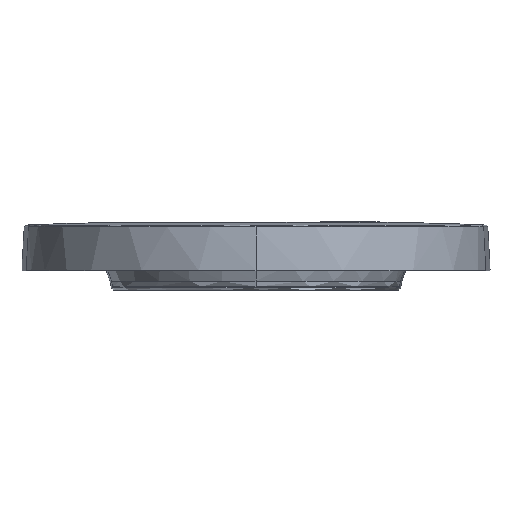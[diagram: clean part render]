
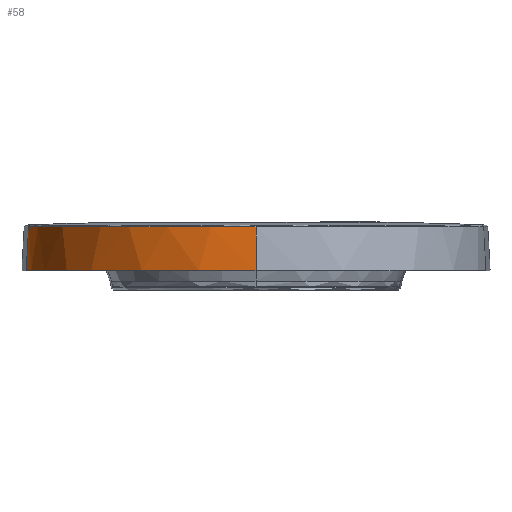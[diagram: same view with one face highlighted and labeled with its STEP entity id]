
A CAD part, front view. The second image highlights one B-rep face of the part: STEP entity #58.
In plain terms, the highlighted free-form (B-spline) face has degree [2, 1] with [9, 2] control points.
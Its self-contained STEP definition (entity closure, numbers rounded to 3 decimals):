
#58=ADVANCED_FACE('',(#572),#7193,.T.);
#572=FACE_OUTER_BOUND('',#1088,.T.);
#1088=EDGE_LOOP('',(#1789,#1790,#1791,#1792,#1793));
#1789=ORIENTED_EDGE('',*,*,#4002,.F.);
#1790=ORIENTED_EDGE('',*,*,#4087,.T.);
#1791=ORIENTED_EDGE('',*,*,#4293,.T.);
#1792=ORIENTED_EDGE('',*,*,#4057,.F.);
#1793=ORIENTED_EDGE('',*,*,#4088,.T.);
#4002=EDGE_CURVE('',#6466,#6467,#5210,.T.);
#4057=EDGE_CURVE('',#6547,#6548,#5251,.T.);
#4087=EDGE_CURVE('',#6466,#6586,#5270,.T.);
#4088=EDGE_CURVE('',#6547,#6467,#5697,.T.);
#4293=EDGE_CURVE('',#6586,#6548,#5841,.T.);
#5210=B_SPLINE_CURVE_WITH_KNOTS('',1,(#14534,#14535),.UNSPECIFIED.,.F.,
 .F.,(2,2),(0.,35.103),.UNSPECIFIED.);
#5251=B_SPLINE_CURVE_WITH_KNOTS('',1,(#15175,#15176),.UNSPECIFIED.,.F.,
 .F.,(2,2),(-35.111,0.),.UNSPECIFIED.);
#5270=B_SPLINE_CURVE_WITH_KNOTS('',3,(#15344,#15345,#15346,#15347,#15348,
#15349,#15350,#15351,#15352,#15353,#15354,#15355,#15356,#15357,#15358,#15359,
#15360,#15361,#15362,#15363,#15364,#15365,#15366,#15367,#15368,#15369,#15370,
#15371,#15372,#15373,#15374,#15375,#15376,#15377),.UNSPECIFIED.,.F.,.F.,
(4,2,2,2,2,2,2,2,2,2,2,2,2,2,2,2,4),(0.284,0.301,
0.319,0.337,0.355,0.372,
0.39,0.408,0.426,0.443,
0.461,0.479,0.497,0.514,
0.532,0.55,0.567),.UNSPECIFIED.);
#5697=(
BOUNDED_CURVE()
B_SPLINE_CURVE(2,(#15378,#15379,#15380),.UNSPECIFIED.,.F.,.F.)
B_SPLINE_CURVE_WITH_KNOTS((3,3),(0.,284.89),.UNSPECIFIED.)
CURVE()
GEOMETRIC_REPRESENTATION_ITEM()
RATIONAL_B_SPLINE_CURVE((1.,0.713,1.))
REPRESENTATION_ITEM('')
);
#5841=(
BOUNDED_CURVE()
B_SPLINE_CURVE(3,(#17278,#17279,#17280,#17281),.UNSPECIFIED.,.F.,.F.)
B_SPLINE_CURVE_WITH_KNOTS((4,4),(-0.805,0.),.UNSPECIFIED.)
CURVE()
GEOMETRIC_REPRESENTATION_ITEM()
RATIONAL_B_SPLINE_CURVE((1.,1.,1.,1.))
REPRESENTATION_ITEM('')
);
#6466=VERTEX_POINT('',#14059);
#6467=VERTEX_POINT('',#14060);
#6547=VERTEX_POINT('',#14140);
#6548=VERTEX_POINT('',#14141);
#6586=VERTEX_POINT('',#14179);
#7193=(
BOUNDED_SURFACE()
B_SPLINE_SURFACE(2,1,((#9683,#9684),(#9685,#9686),(#9687,#9688),(#9689,
#9690),(#9691,#9692),(#9693,#9694),(#9695,#9696),(#9697,#9698),(#9699,#9700)),
 .UNSPECIFIED.,.T.,.F.,.F.)
B_SPLINE_SURFACE_WITH_KNOTS((3,2,2,2,3),(2,2),(0.,288.373,576.746,
865.118,1153.491),(0.,42.136),.UNSPECIFIED.)
GEOMETRIC_REPRESENTATION_ITEM()
RATIONAL_B_SPLINE_SURFACE(((1.,1.),(0.707,0.707),
(1.,1.),(0.707,0.707),(1.,1.),(0.707,
0.707),(1.,1.),(0.707,0.707),(1.,1.)))
REPRESENTATION_ITEM('')
SURFACE()
);
#9683=CARTESIAN_POINT('',(0.,134.24,38.68));
#9684=CARTESIAN_POINT('',(0.,136.445,-3.398));
#9685=CARTESIAN_POINT('',(181.379,134.24,38.68));
#9686=CARTESIAN_POINT('',(183.584,136.445,-3.398));
#9687=CARTESIAN_POINT('',(181.379,-47.139,38.68));
#9688=CARTESIAN_POINT('',(183.584,-47.139,-3.398));
#9689=CARTESIAN_POINT('',(181.379,-228.517,38.68));
#9690=CARTESIAN_POINT('',(183.584,-230.723,-3.398));
#9691=CARTESIAN_POINT('',(0.,-228.517,38.68));
#9692=CARTESIAN_POINT('',(0.,-230.723,-3.398));
#9693=CARTESIAN_POINT('',(-181.379,-228.517,38.68));
#9694=CARTESIAN_POINT('',(-183.584,-230.723,-3.398));
#9695=CARTESIAN_POINT('',(-181.379,-47.139,38.68));
#9696=CARTESIAN_POINT('',(-183.584,-47.139,-3.398));
#9697=CARTESIAN_POINT('',(-181.379,134.24,38.68));
#9698=CARTESIAN_POINT('',(-183.584,136.445,-3.398));
#9699=CARTESIAN_POINT('',(0.,134.24,38.68));
#9700=CARTESIAN_POINT('',(0.,136.445,-3.398));
#14059=CARTESIAN_POINT('',(0.,-228.702,35.164));
#14060=CARTESIAN_POINT('',(0.,-230.539,0.11));
#14140=CARTESIAN_POINT('',(-183.372,-50.333,0.11));
#14141=CARTESIAN_POINT('',(-181.535,-50.301,35.173));
#14179=CARTESIAN_POINT('',(-181.519,-51.106,35.172));
#14534=CARTESIAN_POINT('',(0.,-228.702,35.164));
#14535=CARTESIAN_POINT('',(0.,-230.539,0.11));
#15175=CARTESIAN_POINT('',(-183.372,-50.333,0.11));
#15176=CARTESIAN_POINT('',(-181.535,-50.301,35.173));
#15344=CARTESIAN_POINT('',(0.,-228.702,35.164));
#15345=CARTESIAN_POINT('',(-5.859,-228.702,35.164));
#15346=CARTESIAN_POINT('',(-11.718,-228.418,35.164));
#15347=CARTESIAN_POINT('',(-23.381,-227.285,35.164));
#15348=CARTESIAN_POINT('',(-29.185,-226.436,35.164));
#15349=CARTESIAN_POINT('',(-40.684,-224.182,35.164));
#15350=CARTESIAN_POINT('',(-46.379,-222.776,35.164));
#15351=CARTESIAN_POINT('',(-57.606,-219.42,35.164));
#15352=CARTESIAN_POINT('',(-63.139,-217.471,35.164));
#15353=CARTESIAN_POINT('',(-73.989,-213.046,35.164));
#15354=CARTESIAN_POINT('',(-79.307,-210.57,35.164));
#15355=CARTESIAN_POINT('',(-89.679,-205.117,35.164));
#15356=CARTESIAN_POINT('',(-94.732,-202.139,35.164));
#15357=CARTESIAN_POINT('',(-104.529,-195.709,35.164));
#15358=CARTESIAN_POINT('',(-109.271,-192.257,35.164));
#15359=CARTESIAN_POINT('',(-118.4,-184.91,35.164));
#15360=CARTESIAN_POINT('',(-122.786,-181.015,35.164));
#15361=CARTESIAN_POINT('',(-131.162,-172.821,35.164));
#15362=CARTESIAN_POINT('',(-135.151,-168.52,35.165));
#15363=CARTESIAN_POINT('',(-142.696,-159.554,35.165));
#15364=CARTESIAN_POINT('',(-146.251,-154.889,35.165));
#15365=CARTESIAN_POINT('',(-152.894,-145.235,35.165));
#15366=CARTESIAN_POINT('',(-155.981,-140.248,35.165));
#15367=CARTESIAN_POINT('',(-161.66,-129.997,35.166));
#15368=CARTESIAN_POINT('',(-164.25,-124.735,35.166));
#15369=CARTESIAN_POINT('',(-168.913,-113.981,35.167));
#15370=CARTESIAN_POINT('',(-170.984,-108.49,35.167));
#15371=CARTESIAN_POINT('',(-174.585,-97.333,35.168));
#15372=CARTESIAN_POINT('',(-176.115,-91.667,35.168));
#15373=CARTESIAN_POINT('',(-178.619,-80.22,35.169));
#15374=CARTESIAN_POINT('',(-179.594,-74.438,35.17));
#15375=CARTESIAN_POINT('',(-180.98,-62.809,35.171));
#15376=CARTESIAN_POINT('',(-181.391,-56.96,35.172));
#15377=CARTESIAN_POINT('',(-181.519,-51.106,35.172));
#15378=CARTESIAN_POINT('',(-183.372,-50.333,0.11));
#15379=CARTESIAN_POINT('',(-180.233,-230.539,0.11));
#15380=CARTESIAN_POINT('',(0.,-230.539,0.11));
#17278=CARTESIAN_POINT('',(-181.519,-51.106,35.172));
#17279=CARTESIAN_POINT('',(-181.525,-50.837,35.172));
#17280=CARTESIAN_POINT('',(-181.53,-50.569,35.173));
#17281=CARTESIAN_POINT('',(-181.535,-50.301,35.173));
